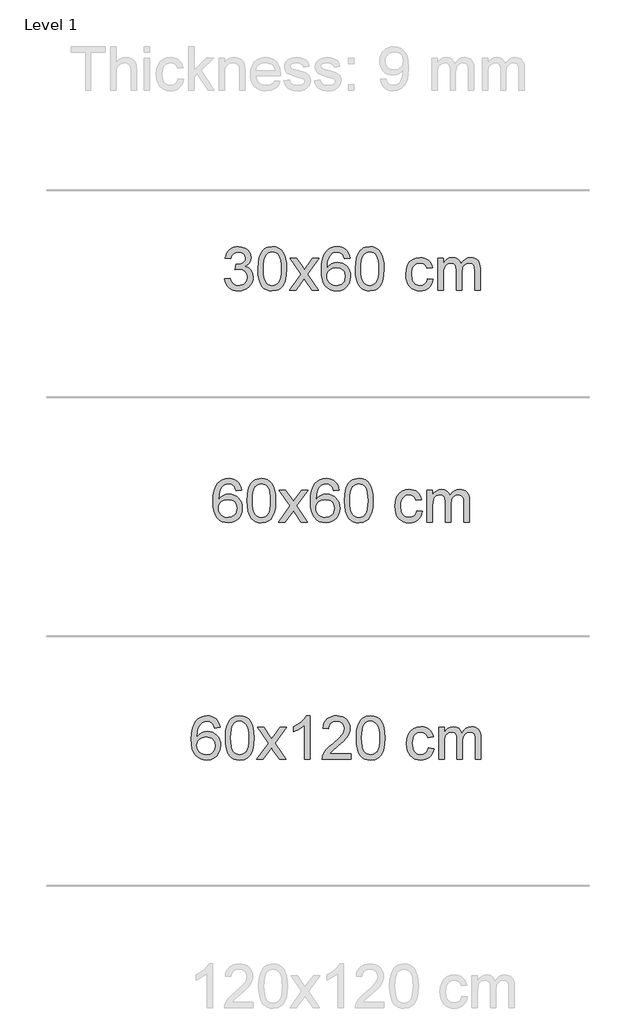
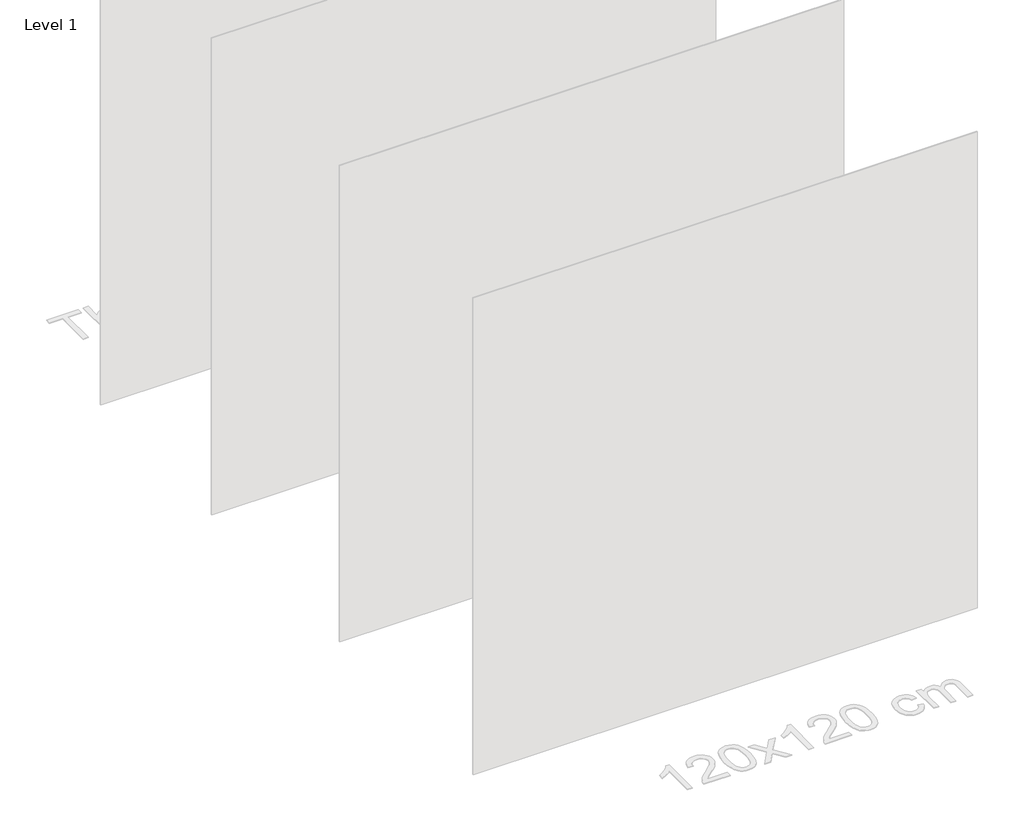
# One storey, part 2 of 7: 3 proxies.
"""IFC4 building model written with IfcOpenShell, lengths in millimetres."""

import ifcopenshell
import ifcopenshell.guid

model = None  # the IFC model being written
_history = None  # IfcOwnerHistory: only IFC2X3 demands one
_inside = {}  # id of a spatial element -> (the spatial element, [elements in it])
_under = {}  # id of a project, library or spatial element -> (it, [spatial elements below it])
_declared = {}  # id of a project -> (the project, [libraries it declares])
_typed = {}  # id of a type object -> (the type object, [elements of that type])
_made_of = {}  # id of a material, layer set ... -> (it, [elements and type objects made of it])


def new_model(schema):
    """Start an empty IFC model of exactly this schema.

    Asked for "IFC4X3", IfcOpenShell would pick the latest addendum, in which some entities
    have other attributes; the version numbers below select the first issue.
    IFC2X3 requires an IfcOwnerHistory on every rooted entity: one is made here for all.
    """
    global model, _history
    if schema == "IFC4X3":
        model = ifcopenshell.file(schema_version=(4, 3, 0, 0))
    else:
        model = ifcopenshell.file(schema=schema)
    _inside.clear()
    _under.clear()
    _declared.clear()
    _typed.clear()
    _made_of.clear()
    _history = None
    if model.schema == "IFC2X3":
        org = make("IfcOrganization", Name="unknown")
        user = make(
            "IfcPersonAndOrganization",
            ThePerson=make("IfcPerson", FamilyName="unknown"),
            TheOrganization=org,
        )
        app = make(
            "IfcApplication",
            ApplicationDeveloper=org,
            Version="unknown",
            ApplicationFullName="unknown",
            ApplicationIdentifier="unknown",
        )
        _history = make(
            "IfcOwnerHistory",
            OwningUser=user,
            OwningApplication=app,
            ChangeAction="ADDED",
            CreationDate=0,
        )
    return model


def make(cls, **values):
    """One entity of the class cls with the attributes given. An attribute that is None is left unset."""
    return model.create_entity(
        cls, **{name: value for name, value in values.items() if value is not None}
    )


def rooted(cls, **values):
    """An entity with a GlobalId (a new one), such as an element, a storey or a relation."""
    return make(cls, GlobalId=ifcopenshell.guid.new(), OwnerHistory=_history, **values)


def si_unit(unit_type, name, prefix=None):
    """IfcSIUnit, for example si_unit("LENGTHUNIT", "METRE", prefix="MILLI")."""
    return make("IfcSIUnit", UnitType=unit_type, Prefix=prefix, Name=name)


def assignment(units):
    """IfcUnitAssignment: the units of a project."""
    return None if units is None else make("IfcUnitAssignment", Units=units)


def point(xyz):
    """IfcCartesianPoint."""
    return None if xyz is None else make("IfcCartesianPoint", Coordinates=xyz)


def direction(xyz):
    """IfcDirection."""
    return None if xyz is None else make("IfcDirection", DirectionRatios=xyz)


def frame(location, z_axis=None, x_axis=None):
    """IfcAxis2Placement3D, a coordinate frame: its origin and axes. An axis left out is left unset."""
    return make(
        "IfcAxis2Placement3D",
        Location=point(location),
        Axis=direction(z_axis),
        RefDirection=direction(x_axis),
    )


def origin():
    """The frame at (0, 0, 0) with its axes left unset."""
    return frame((0.0, 0.0, 0.0))


def origin_with_axes():
    """The frame at (0, 0, 0) with the z axis (0, 0, 1) and the x axis (1, 0, 0) written out."""
    return frame((0.0, 0.0, 0.0), z_axis=(0.0, 0.0, 1.0), x_axis=(1.0, 0.0, 0.0))


def place(relative_to, where):
    """IfcLocalPlacement: puts the frame where relative to a parent placement (None: the world)."""
    return make(
        "IfcLocalPlacement", PlacementRelTo=relative_to, RelativePlacement=where
    )


def context(
    kind, dimensions, precision=None, world=None, true_north=None, identifier=None
):
    """IfcGeometricRepresentationContext, for example the 3D "Model" context."""
    return make(
        "IfcGeometricRepresentationContext",
        ContextIdentifier=identifier,
        ContextType=kind,
        CoordinateSpaceDimension=dimensions,
        Precision=precision,
        WorldCoordinateSystem=world,
        TrueNorth=true_north,
    )


def project(units=None, contexts=None):
    """IfcProject with its units and contexts."""
    return rooted(
        "IfcProject",
        Name="project",
        RepresentationContexts=contexts,
        UnitsInContext=assignment(units),
    )


def spatial(cls, under=None, at=None, **own):
    """A site, building, storey or space (cls), placed at a placement, below another one or the project."""
    s = rooted(cls, ObjectPlacement=at, **own)
    if under is not None:
        _under.setdefault(under.id(), (under, []))[1].append(s)
    return s


def polyline(points):
    """IfcPolyline through the points."""
    return make("IfcPolyline", Points=[point(p) for p in points])


def outline(outer, holes=None, kind="AREA"):
    """IfcArbitraryClosedProfileDef: a profile drawn as a closed curve; with holes, ...WithVoids."""
    if holes is None:
        return make("IfcArbitraryClosedProfileDef", ProfileType=kind, OuterCurve=outer)
    return make(
        "IfcArbitraryProfileDefWithVoids",
        ProfileType=kind,
        OuterCurve=outer,
        InnerCurves=holes,
    )


def extrude(swept, where, along, depth):
    """IfcExtrudedAreaSolid: the profile swept, set in the frame where, extruded along a direction by depth."""
    return make(
        "IfcExtrudedAreaSolid",
        SweptArea=swept,
        Position=where,
        ExtrudedDirection=direction(along),
        Depth=depth,
    )


def shape(context_of_items, identifier, shape_type, items):
    """IfcShapeRepresentation: the items that make up one representation, for example the "Body"."""
    return make(
        "IfcShapeRepresentation",
        ContextOfItems=context_of_items,
        RepresentationIdentifier=identifier,
        RepresentationType=shape_type,
        Items=items,
    )


def made_of(thing, what):
    """Note that an element or type object is made of a material, layer set ...; save() writes the relation."""
    if what is not None:
        _made_of.setdefault(what.id(), (what, []))[1].append(thing)
    return thing


def element(
    cls,
    number,
    at=None,
    inside=None,
    cuts=None,
    type_object=None,
    material=None,
    context=None,
    identifier="Body",
    shape_type=None,
    held_by="IfcProductDefinitionShape",
    body=None,
    shapes=None,
    **own,
):
    """One element of the class cls, such as IfcWall. Its Tag is "e" and its number.

    at: its placement. inside: the storey or other place that contains it. cuts: it is an
    opening in that element (IfcRelVoidsElement). A single representation is given by context,
    identifier, shape_type and body (its items); several are given by shapes. held_by: the class
    of the entity that holds the representations. save() writes the other relations.
    """
    e = rooted(cls, Tag="e%d" % number, ObjectPlacement=at, **own)
    if body is not None:
        shapes = [shape(context, identifier, shape_type, body)]
    if shapes is not None:
        e.Representation = make(held_by, Representations=shapes)
    if inside is not None:
        _inside.setdefault(inside.id(), (inside, []))[1].append(e)
    if cuts is not None:
        rooted(
            "IfcRelVoidsElement", RelatingBuildingElement=cuts, RelatedOpeningElement=e
        )
    if type_object is not None:
        _typed.setdefault(type_object.id(), (type_object, []))[1].append(e)
    return made_of(e, material)


def aggregate(whole, parts):
    """IfcRelAggregates: a whole, such as a stair, and the parts it consists of."""
    return rooted("IfcRelAggregates", RelatingObject=whole, RelatedObjects=parts)


def save(model, path):
    """Write the relations noted so far, then the file.

    IfcRelAggregates (storeys below a building ...), IfcRelContainedInSpatialStructure (elements
    in a storey), IfcRelDefinesByType, IfcRelAssociatesMaterial and IfcRelDeclares: one each for
    every whole, place, type object, material and project.
    """
    for whole, parts in _under.values():
        aggregate(whole, parts)
    for where, things in _inside.values():
        rooted(
            "IfcRelContainedInSpatialStructure",
            RelatedElements=things,
            RelatingStructure=where,
        )
    for kind, things in _typed.values():
        rooted("IfcRelDefinesByType", RelatedObjects=things, RelatingType=kind)
    for what, things in _made_of.values():
        rooted("IfcRelAssociatesMaterial", RelatedObjects=things, RelatingMaterial=what)
    for by, libraries in _declared.values():
        rooted("IfcRelDeclares", RelatingContext=by, RelatedDefinitions=libraries)
    model.write(path)


model = new_model("IFC4")

# Units and contexts
model_context = context("Model", 3, world=origin())
ifc_project = project(units=[si_unit("LENGTHUNIT", "METRE", prefix="MILLI")], contexts=[model_context])

# Site, building, storey
site = spatial("IfcSite", under=ifc_project)
building = spatial("IfcBuilding", under=site)
storey = spatial("IfcBuildingStorey", under=building, Name="Level 1", Elevation=0.0)

# Proxies
placement = place(None, origin())
element("IfcBuildingElementProxy", 1, Name="400mm Arial", ObjectType="400mm Arial", at=placement, inside=storey, context=model_context, shape_type="SweptSolid", body=[
    extrude(outline(polyline([(-14846.8810506, 5761.2945542), (-14897.1092056, 5755.0160348), (-14905.2026095, 5779.9093831), (-14916.1409675, 5796.9055313), (-14938.9251257, 5812.5773043), (-14966.4672245, 5817.8012286), (-14989.8154684, 5814.7600708), (-15011.7902863, 5805.6365973), (-15030.6626326, 5786.4208944), (-15046.0768882, 5759.970179), (-15056.4879487, 5722.5565801), (-15060.3507096, 5670.4522268), (-15040.203039, 5693.9598863), (-15016.0577174, 5710.5268388), (-14989.2636454, 5720.3492881), (-14961.1697237, 5723.6234379), (-14937.0366648, 5721.3854891), (-14914.7675414, 5714.6716427), (-14894.3623534, 5703.4818986), (-14875.8211008, 5687.816257), (-14860.4129766, 5668.6066855), (-14849.4071736, 5646.7851518), (-14842.8036918, 5622.351656), (-14840.6025312, 5595.306198), (-14844.747335, 5559.3396016), (-14857.1817464, 5525.9972301), (-14876.8756959, 5497.7193674), (-14902.7991138, 5476.9462974), (-14933.7747778, 5464.1807921), (-14968.6254655, 5459.9256237), (-14998.5679942, 5462.7460524), (-15025.6103865, 5471.2073382), (-15049.7526425, 5485.3094814), (-15070.994762, 5505.0524818), (-15088.3128069, 5531.2702053), (-15100.682839, 5564.7965178), (-15108.1048583, 5605.6314193), (-15110.5788647, 5653.7749097), (-15107.8320125, 5707.7493298), (-15099.5914558, 5753.8142869), (-15085.8571946, 5791.9697812), (-15066.629229, 5822.2158126), (-15045.788714, 5842.25925), (-15021.6249983, 5856.5759909), (-14994.1380819, 5865.1660355), (-14963.3279648, 5868.0293837), (-14940.1943186, 5866.2574188), (-14919.2557017, 5860.9415239), (-14900.5121141, 5852.0816992), (-14883.9635557, 5839.6779446), (-14870.0576162, 5824.1471931), (-14859.2418856, 5805.9063775), (-14851.5163637, 5784.9554978), (-14846.8810506, 5761.2945542)]), holes=[polyline([(-15060.3507096, 5596.0910129), (-15057.4444419, 5573.8341522), (-15048.7256386, 5552.5828356), (-15035.1875812, 5534.3113632), (-15017.823551, 5520.9940349), (-14996.86654, 5512.8638428), (-14972.5495401, 5510.1537788), (-14939.4033723, 5515.7701106), (-14925.4882359, 5522.7905253), (-14913.3450643, 5532.619106), (-14903.4950239, 5544.8573137), (-14896.4592808, 5559.1066096), (-14890.8306862, 5593.6384662), (-14896.3857044, 5626.784634), (-14903.329477, 5640.4054649), (-14913.0507588, 5652.0581271), (-14925.2307185, 5661.3931327), (-14939.5505251, 5668.0609939), (-14974.6096793, 5673.3952828), (-15007.7067961, 5668.0609939), (-15035.3837849, 5652.0581271), (-15046.3068145, 5640.558749), (-15054.1089784, 5627.3977707), (-15058.7902768, 5612.5751919), (-15060.3507096, 5596.0910129)])]), origin_with_axes(), (0.0, 0.0, 1.0), 5.0),
    extrude(outline(polyline([(-14796.6528955, 5663.8794019), (-14792.9618128, 5728.1974373), (-14781.8885647, 5779.4924502), (-14763.5435159, 5818.5492554), (-14751.6854529, 5833.7826356), (-14738.0370309, 5846.1526677), (-14722.5522646, 5855.723731), (-14705.1851687, 5862.5602047), (-14664.8039884, 5868.0293837), (-14633.8528499, 5864.7920222), (-14606.1390729, 5855.0799375), (-14582.9625072, 5839.2732744), (-14565.6230025, 5817.7521777), (-14552.5264035, 5790.7005883), (-14542.0785548, 5758.3024473), (-14535.2359497, 5717.1609775), (-14532.9550813, 5663.8794019), (-14536.6093758, 5599.9292484), (-14547.5722593, 5548.7568628), (-14565.8069435, 5509.6632695), (-14577.6374153, 5494.3839039), (-14591.2766403, 5481.9494925), (-14606.7798007, 5472.3140499), (-14624.2020789, 5465.4315909), (-14664.8039884, 5459.9256237), (-14692.4687144, 5462.3168567), (-14716.9941808, 5469.4905556), (-14738.3803874, 5481.4467204), (-14756.6273344, 5498.1853512), (-14774.1385174, 5528.4436453), (-14786.6465052, 5566.1454185), (-14794.1512979, 5611.2906706), (-14796.6528955, 5663.8794019)]), holes=[polyline([(-14746.4247404, 5663.9775037), (-14744.9532124, 5620.3129766), (-14740.5386285, 5584.9687139), (-14733.1809886, 5557.9447157), (-14722.8802927, 5539.2409819), (-14710.4213558, 5526.5153305), (-14696.5889928, 5517.4255796), (-14681.3832037, 5511.971729), (-14664.8039884, 5510.1537788), (-14648.2247732, 5511.9778604), (-14633.018984, 5517.450105), (-14619.186621, 5526.5705128), (-14606.7276841, 5539.3390838), (-14596.4269882, 5558.0734744), (-14589.0693483, 5585.0913412), (-14584.6547644, 5620.3926843), (-14583.1832364, 5663.9775037), (-14584.6057135, 5706.4862683), (-14588.8731446, 5741.2081972), (-14595.9855298, 5768.1432907), (-14605.9428692, 5787.2915485), (-14618.1933396, 5800.6395336), (-14632.1851182, 5810.1738086), (-14647.9182048, 5815.8943736), (-14665.3925996, 5817.8012286), (-14681.8859757, 5816.1212342), (-14696.8342475, 5811.0812509), (-14710.2374148, 5802.6812786), (-14722.0954778, 5790.9213175), (-14732.7395302, 5770.0746711), (-14740.3424247, 5741.9684867), (-14744.9041615, 5706.6027642), (-14746.4247404, 5663.9775037)])]), origin_with_axes(), (0.0, 0.0, 1.0), 5.0),
    extrude(outline(polyline([(-14507.8410038, 5466.2041431), (-14400.5175631, 5614.6322654), (-14501.5624844, 5761.2945542), (-14441.3279391, 5761.2945542), (-14392.571312, 5690.5631092), (-14369.7135773, 5657.3065769), (-14349.8970005, 5684.5788955), (-14294.3713447, 5761.2945542), (-14233.9405957, 5761.2945542), (-14340.086814, 5614.5341636), (-14237.8646703, 5466.2041431), (-14298.1973175, 5466.2041431), (-14359.8052889, 5555.4768406), (-14370.9889016, 5571.8598521), (-14447.4102547, 5466.2041431), (-14507.8410038, 5466.2041431)])), origin_with_axes(), (0.0, 0.0, 1.0), 5.0),
    extrude(outline(polyline([(-14018.1164918, 5466.2041431), (-14068.3446469, 5466.2041431), (-14068.3446469, 5779.3452974), (-14089.3139206, 5762.3859374), (-14115.9240516, 5745.4511029), (-14168.800957, 5720.0917707), (-14168.800957, 5767.5730736), (-14129.3517444, 5789.0328566), (-14095.1755071, 5814.5638671), (-14068.2342823, 5841.7135583), (-14050.4901074, 5868.0293837), (-14018.1164918, 5868.0293837), (-14018.1164918, 5466.2041431)])), origin_with_axes(), (0.0, 0.0, 1.0), 5.0),
    extrude(outline(polyline([(-13641.4053288, 5516.4322982), (-13641.4053288, 5466.2041431), (-13905.1031429, 5466.2041431), (-13903.9994969, 5483.8870043), (-13899.7075403, 5500.8341016), (-13887.3099171, 5527.8979537), (-13869.1488092, 5554.1524654), (-13842.8942975, 5581.6332505), (-13806.2164626, 5612.3759225), (-13752.0274447, 5660.519413), (-13719.5434645, 5696.0568137), (-13703.3198685, 5724.8987621), (-13697.9120032, 5752.9558956), (-13703.0255629, 5778.1067614), (-13718.3662421, 5799.0147214), (-13741.947478, 5813.1046018), (-13771.7827078, 5817.8012286), (-13803.1139911, 5813.2149664), (-13827.4555165, 5799.4561798), (-13843.1640776, 5777.6039893), (-13848.5964684, 5748.7375154), (-13898.8246235, 5755.0160348), (-13894.5050758, 5780.9455841), (-13886.6477295, 5803.6009836), (-13875.2525847, 5822.9822334), (-13860.3196414, 5839.0893334), (-13842.192256, 5851.7506054), (-13821.2137853, 5860.7943711), (-13797.384229, 5866.2206306), (-13770.7035873, 5868.0293837), (-13743.7838223, 5866.0182955), (-13719.8255074, 5859.9850308), (-13698.8286425, 5849.9295895), (-13680.7932277, 5835.8519719), (-13666.3078741, 5818.79451), (-13655.961193, 5799.7995363), (-13649.7531844, 5778.8670508), (-13647.6838481, 5755.9970534), (-13649.9156656, 5731.9743592), (-13656.6111179, 5708.3685978), (-13668.4937063, 5684.3581663), (-13686.2869322, 5659.1214614), (-13714.650634, 5628.991926), (-13758.2446504, 5590.3030028), (-13816.0266491, 5541.9878341), (-13838.68818, 5516.4322982), (-13641.4053288, 5516.4322982)])), origin_with_axes(), (0.0, 0.0, 1.0), 5.0),
    extrude(outline(polyline([(-13591.1771737, 5663.8794019), (-13587.486091, 5728.1974373), (-13576.4128429, 5779.4924502), (-13558.0677941, 5818.5492554), (-13546.2097311, 5833.7826356), (-13532.5613091, 5846.1526677), (-13517.0765428, 5855.723731), (-13499.7094469, 5862.5602047), (-13459.3282666, 5868.0293837), (-13428.3771281, 5864.7920222), (-13400.6633511, 5855.0799375), (-13377.4867854, 5839.2732744), (-13360.1472807, 5817.7521777), (-13347.0506817, 5790.7005883), (-13336.602833, 5758.3024473), (-13329.7602279, 5717.1609775), (-13327.4793595, 5663.8794019), (-13331.133654, 5599.9292484), (-13342.0965375, 5548.7568628), (-13360.3312217, 5509.6632695), (-13372.1616935, 5494.3839039), (-13385.8009185, 5481.9494925), (-13401.3040789, 5472.3140499), (-13418.7263571, 5465.4315909), (-13459.3282666, 5459.9256237), (-13486.9929926, 5462.3168567), (-13511.518459, 5469.4905556), (-13532.9046656, 5481.4467204), (-13551.1516126, 5498.1853512), (-13568.6627956, 5528.4436453), (-13581.1707834, 5566.1454185), (-13588.6755761, 5611.2906706), (-13591.1771737, 5663.8794019)]), holes=[polyline([(-13540.9490186, 5663.9775037), (-13539.4774906, 5620.3129766), (-13535.0629067, 5584.9687139), (-13527.7052668, 5557.9447157), (-13517.4045709, 5539.2409819), (-13504.945634, 5526.5153305), (-13491.113271, 5517.4255796), (-13475.9074819, 5511.971729), (-13459.3282666, 5510.1537788), (-13442.7490514, 5511.9778604), (-13427.5432622, 5517.450105), (-13413.7108992, 5526.5705128), (-13401.2519623, 5539.3390838), (-13390.9512664, 5558.0734744), (-13383.5936265, 5585.0913412), (-13379.1790426, 5620.3926843), (-13377.7075146, 5663.9775037), (-13379.1299917, 5706.4862683), (-13383.3974228, 5741.2081972), (-13390.509808, 5768.1432907), (-13400.4671474, 5787.2915485), (-13412.7176178, 5800.6395336), (-13426.7093964, 5810.1738086), (-13442.442483, 5815.8943736), (-13459.9168778, 5817.8012286), (-13476.4102539, 5816.1212342), (-13491.3585257, 5811.0812509), (-13504.761693, 5802.6812786), (-13516.619756, 5790.9213175), (-13527.2638084, 5770.0746711), (-13534.866703, 5741.9684867), (-13539.4284397, 5706.6027642), (-13540.9490186, 5663.9775037)])]), origin_with_axes(), (0.0, 0.0, 1.0), 5.0),
    extrude(outline(polyline([(-12925.6541189, 5572.9389726), (-12875.4259639, 5566.6604533), (-12880.8890115, 5542.9596557), (-12889.4300051, 5521.9873163), (-12901.0489448, 5503.743435), (-12915.7458305, 5488.2280119), (-12932.9013942, 5475.8457171), (-12951.8963679, 5467.0012208), (-12972.7307516, 5461.694523), (-12995.4045452, 5459.9256237), (-13023.575109, 5462.3934988), (-13048.8332737, 5469.7971239), (-13071.1790392, 5482.1364992), (-13090.6124056, 5499.4116245), (-13106.3424266, 5521.2975376), (-13117.5781558, 5547.4692758), (-13124.3195934, 5577.9268394), (-13126.5667392, 5612.6702281), (-13122.7285038, 5657.3678905), (-13111.2137973, 5696.1058646), (-13091.8386789, 5727.388097), (-13064.4192075, 5749.7185341), (-13031.6163963, 5763.1094387), (-12996.0912583, 5767.5730736), (-12973.8068064, 5766.0402319), (-12953.6499388, 5761.441707), (-12935.6206553, 5753.7774987), (-12919.7189561, 5743.0476072), (-12906.2146212, 5729.4972871), (-12895.3774307, 5713.3717929), (-12887.2073848, 5694.6711249), (-12881.7044833, 5673.3952828), (-12931.9326383, 5667.1167634), (-12941.0438491, 5689.0302676), (-12955.2318314, 5704.7388288), (-12973.7117702, 5714.1933961), (-12995.6988508, 5717.3449185), (-13012.7655097, 5715.7936827), (-13028.1583055, 5711.1399755), (-13041.8772383, 5703.3837968), (-13053.9223079, 5692.5251465), (-13063.7294288, 5678.3126388), (-13070.7345151, 5660.4948875), (-13074.9375669, 5639.0718926), (-13076.3385842, 5614.0436542), (-13070.8571424, 5566.9670216), (-13064.0053403, 5549.0297086), (-13054.4128173, 5534.8263979), (-13042.6068709, 5524.0321271), (-13029.1147987, 5516.3219336), (-13013.9366007, 5511.6958175), (-12997.0722769, 5510.1537788), (-12971.0630199, 5514.004277), (-12949.7381269, 5525.5557717), (-12934.2257694, 5545.1025683), (-12925.6541189, 5572.9389726)])), origin_with_axes(), (0.0, 0.0, 1.0), 5.0),
    extrude(outline(polyline([(-12831.4763282, 5466.2041431), (-12831.4763282, 5761.2945542), (-12781.2481731, 5761.2945542), (-12781.2481731, 5712.7341308), (-12766.1404858, 5735.0400425), (-12746.7163165, 5752.5144372), (-12723.6378527, 5763.8084145), (-12697.5672819, 5767.5730736), (-12669.6327758, 5763.7348381), (-12647.241025, 5752.2201316), (-12630.5146569, 5733.7892437), (-12619.576299, 5709.2024637), (-12601.2680383, 5734.7396055), (-12580.3846037, 5752.9804211), (-12556.9259952, 5763.9249104), (-12530.8922127, 5767.5730736), (-12510.7843959, 5766.0555603), (-12493.1352572, 5761.5030206), (-12477.9447965, 5753.9154545), (-12465.2130138, 5743.2928619), (-12455.1483755, 5729.5126155), (-12447.9593482, 5712.452088), (-12443.6459318, 5692.1112793), (-12442.2081263, 5668.4901895), (-12442.2081263, 5466.2041431), (-12492.4362814, 5466.2041431), (-12492.4362814, 5646.9077791), (-12493.6012411, 5671.960543), (-12497.09612, 5688.8463266), (-12503.6444195, 5700.410084), (-12513.9696409, 5709.4967693), (-12527.2501809, 5715.3828812), (-12542.6644365, 5717.3449185), (-12569.8754414, 5712.3171979), (-12592.0587257, 5697.2340361), (-12600.6640987, 5685.6641473), (-12606.8107937, 5671.0653635), (-12611.7281497, 5632.7811105), (-12611.7281497, 5466.2041431), (-12661.9563048, 5466.2041431), (-12661.9563048, 5652.4995855), (-12664.8625726, 5680.9000755), (-12673.5813758, 5701.1581107), (-12688.922055, 5713.2982165), (-12711.6939505, 5717.3449185), (-12731.0445435, 5714.6471172), (-12748.8745575, 5706.5537133), (-12763.5898373, 5693.2609105), (-12773.5962276, 5674.9649126), (-12779.3351867, 5649.581055), (-12781.2481731, 5615.0246729), (-12781.2481731, 5466.2041431), (-12831.4763282, 5466.2041431)])), origin_with_axes(), (0.0, 0.0, 1.0), 5.0),
])
element("IfcBuildingElementProxy", 2, Name="400mm Arial", ObjectType="400mm Arial", at=placement, inside=storey, context=model_context, shape_type="SweptSolid", body=[
    extrude(outline(polyline([(-14646.8810506, 7945.4454612), (-14697.1092056, 7939.1669418), (-14705.2026095, 7964.0602901), (-14716.1409675, 7981.0564383), (-14738.9251257, 7996.7282113), (-14766.4672245, 8001.9521356), (-14789.8154684, 7998.9109778), (-14811.7902863, 7989.7875043), (-14830.6626326, 7970.5718014), (-14846.0768882, 7944.121086), (-14856.4879487, 7906.7074871), (-14860.3507096, 7854.6031338), (-14840.203039, 7878.1107933), (-14816.0577174, 7894.6777458), (-14789.2636454, 7904.5001951), (-14761.1697237, 7907.7743449), (-14737.0366648, 7905.5363961), (-14714.7675414, 7898.8225496), (-14694.3623534, 7887.6328056), (-14675.8211008, 7871.967164), (-14660.4129766, 7852.7575925), (-14649.4071736, 7830.9360588), (-14642.8036918, 7806.502563), (-14640.6025312, 7779.4571049), (-14644.747335, 7743.4905086), (-14657.1817464, 7710.1481371), (-14676.8756959, 7681.8702744), (-14702.7991138, 7661.0972044), (-14733.7747778, 7648.3316991), (-14768.6254655, 7644.0765307), (-14798.5679942, 7646.8969594), (-14825.6103865, 7655.3582452), (-14849.7526425, 7669.4603884), (-14870.994762, 7689.2033888), (-14888.3128069, 7715.4211123), (-14900.682839, 7748.9474248), (-14908.1048583, 7789.7823263), (-14910.5788647, 7837.9258167), (-14907.8320125, 7891.9002368), (-14899.5914558, 7937.9651939), (-14885.8571946, 7976.1206882), (-14866.629229, 8006.3667196), (-14845.788714, 8026.4101569), (-14821.6249983, 8040.7268979), (-14794.1380819, 8049.3169425), (-14763.3279648, 8052.1802907), (-14740.1943186, 8050.4083258), (-14719.2557017, 8045.0924309), (-14700.5121141, 8036.2326062), (-14683.9635557, 8023.8288516), (-14670.0576162, 8008.2981), (-14659.2418856, 7990.0572845), (-14651.5163637, 7969.1064048), (-14646.8810506, 7945.4454612)]), holes=[polyline([(-14860.3507096, 7780.2419199), (-14857.4444419, 7757.9850592), (-14848.7256386, 7736.7337426), (-14835.1875812, 7718.4622701), (-14817.823551, 7705.1449419), (-14796.86654, 7697.0147498), (-14772.5495401, 7694.3046858), (-14739.4033723, 7699.9210176), (-14725.4882359, 7706.9414323), (-14713.3450643, 7716.770013), (-14703.4950239, 7729.0082207), (-14696.4592808, 7743.2575166), (-14690.8306862, 7777.7893732), (-14696.3857044, 7810.935541), (-14703.329477, 7824.5563719), (-14713.0507588, 7836.2090341), (-14725.2307185, 7845.5440397), (-14739.5505251, 7852.2119009), (-14774.6096793, 7857.5461898), (-14807.7067961, 7852.2119009), (-14835.3837849, 7836.2090341), (-14846.3068145, 7824.709656), (-14854.1089784, 7811.5486777), (-14858.7902768, 7796.7260989), (-14860.3507096, 7780.2419199)])]), origin_with_axes(), (0.0, 0.0, 1.0), 5.0),
    extrude(outline(polyline([(-14596.6528955, 7848.0303088), (-14592.9618128, 7912.3483443), (-14581.8885647, 7963.6433572), (-14563.5435159, 8002.7001624), (-14551.6854529, 8017.9335426), (-14538.0370309, 8030.3035747), (-14522.5522646, 8039.874638), (-14505.1851687, 8046.7111117), (-14464.8039884, 8052.1802907), (-14433.8528499, 8048.9429291), (-14406.1390729, 8039.2308445), (-14382.9625072, 8023.4241814), (-14365.6230025, 8001.9030847), (-14352.5264035, 7974.8514953), (-14342.0785548, 7942.4533543), (-14335.2359497, 7901.3118845), (-14332.9550813, 7848.0303088), (-14336.6093758, 7784.0801554), (-14347.5722593, 7732.9077698), (-14365.8069435, 7693.8141765), (-14377.6374153, 7678.5348109), (-14391.2766403, 7666.1003995), (-14406.7798007, 7656.4649569), (-14424.2020789, 7649.5824979), (-14464.8039884, 7644.0765307), (-14492.4687144, 7646.4677637), (-14516.9941808, 7653.6414626), (-14538.3803874, 7665.5976274), (-14556.6273344, 7682.3362582), (-14574.1385174, 7712.5945523), (-14586.6465052, 7750.2963255), (-14594.1512979, 7795.4415776), (-14596.6528955, 7848.0303088)]), holes=[polyline([(-14546.4247404, 7848.1284107), (-14544.9532124, 7804.4638836), (-14540.5386285, 7769.1196209), (-14533.1809886, 7742.0956227), (-14522.8802927, 7723.3918889), (-14510.4213558, 7710.6662375), (-14496.5889928, 7701.5764866), (-14481.3832037, 7696.122636), (-14464.8039884, 7694.3046858), (-14448.2247732, 7696.1287674), (-14433.018984, 7701.601012), (-14419.186621, 7710.7214198), (-14406.7276841, 7723.4899907), (-14396.4269882, 7742.2243814), (-14389.0693483, 7769.2422482), (-14384.6547644, 7804.5435913), (-14383.1832364, 7848.1284107), (-14384.6057135, 7890.6371753), (-14388.8731446, 7925.3591042), (-14395.9855298, 7952.2941976), (-14405.9428692, 7971.4424555), (-14418.1933396, 7984.7904406), (-14432.1851182, 7994.3247156), (-14447.9182048, 8000.0452806), (-14465.3925996, 8001.9521356), (-14481.8859757, 8000.2721412), (-14496.8342475, 7995.2321579), (-14510.2374148, 7986.8321856), (-14522.0954778, 7975.0722245), (-14532.7395302, 7954.2255781), (-14540.3424247, 7926.1193937), (-14544.9041615, 7890.7536712), (-14546.4247404, 7848.1284107)])]), origin_with_axes(), (0.0, 0.0, 1.0), 5.0),
    extrude(outline(polyline([(-14307.8410038, 7650.3550501), (-14200.5175631, 7798.7831724), (-14301.5624844, 7945.4454612), (-14241.3279391, 7945.4454612), (-14192.571312, 7874.7140162), (-14169.7135773, 7841.4574839), (-14149.8970005, 7868.7298024), (-14094.3713447, 7945.4454612), (-14033.9405957, 7945.4454612), (-14140.086814, 7798.6850706), (-14037.8646703, 7650.3550501), (-14098.1973175, 7650.3550501), (-14159.8052889, 7739.6277476), (-14170.9889016, 7756.0107591), (-14247.4102547, 7650.3550501), (-14307.8410038, 7650.3550501)])), origin_with_axes(), (0.0, 0.0, 1.0), 5.0),
    extrude(outline(polyline([(-13749.0527786, 7945.4454612), (-13799.2809337, 7939.1669418), (-13807.3743376, 7964.0602901), (-13818.3126955, 7981.0564383), (-13841.0968538, 7996.7282113), (-13868.6389525, 8001.9521356), (-13891.9871964, 7998.9109778), (-13913.9620143, 7989.7875043), (-13932.8343606, 7970.5718014), (-13948.2486162, 7944.121086), (-13958.6596767, 7906.7074871), (-13962.5224377, 7854.6031338), (-13942.3747671, 7878.1107933), (-13918.2294454, 7894.6777458), (-13891.4353735, 7904.5001951), (-13863.3414518, 7907.7743449), (-13839.2083929, 7905.5363961), (-13816.9392694, 7898.8225496), (-13796.5340814, 7887.6328056), (-13777.9928289, 7871.967164), (-13762.5847046, 7852.7575925), (-13751.5789016, 7830.9360588), (-13744.9754198, 7806.502563), (-13742.7742592, 7779.4571049), (-13746.919063, 7743.4905086), (-13759.3534745, 7710.1481371), (-13779.0474239, 7681.8702744), (-13804.9708419, 7661.0972044), (-13835.9465059, 7648.3316991), (-13870.7971935, 7644.0765307), (-13900.7397223, 7646.8969594), (-13927.7821146, 7655.3582452), (-13951.9243705, 7669.4603884), (-13973.1664901, 7689.2033888), (-13990.484535, 7715.4211123), (-14002.8545671, 7748.9474248), (-14010.2765863, 7789.7823263), (-14012.7505927, 7837.9258167), (-14010.0037405, 7891.9002368), (-14001.7631838, 7937.9651939), (-13988.0289227, 7976.1206882), (-13968.800957, 8006.3667196), (-13947.960442, 8026.4101569), (-13923.7967263, 8040.7268979), (-13896.3098099, 8049.3169425), (-13865.4996928, 8052.1802907), (-13842.3660467, 8050.4083258), (-13821.4274298, 8045.0924309), (-13802.6838421, 8036.2326062), (-13786.1352837, 8023.8288516), (-13772.2293443, 8008.2981), (-13761.4136136, 7990.0572845), (-13753.6880917, 7969.1064048), (-13749.0527786, 7945.4454612)]), holes=[polyline([(-13962.5224377, 7780.2419199), (-13959.6161699, 7757.9850592), (-13950.8973666, 7736.7337426), (-13937.3593092, 7718.4622701), (-13919.995279, 7705.1449419), (-13899.038268, 7697.0147498), (-13874.7212681, 7694.3046858), (-13841.5751004, 7699.9210176), (-13827.6599639, 7706.9414323), (-13815.5167924, 7716.770013), (-13805.666752, 7729.0082207), (-13798.6310088, 7743.2575166), (-13793.0024143, 7777.7893732), (-13798.5574324, 7810.935541), (-13805.5012051, 7824.5563719), (-13815.2224868, 7836.2090341), (-13827.4024465, 7845.5440397), (-13841.7222532, 7852.2119009), (-13876.7814073, 7857.5461898), (-13909.8785241, 7852.2119009), (-13937.5555129, 7836.2090341), (-13948.4785425, 7824.709656), (-13956.2807065, 7811.5486777), (-13960.9620049, 7796.7260989), (-13962.5224377, 7780.2419199)])]), origin_with_axes(), (0.0, 0.0, 1.0), 5.0),
    extrude(outline(polyline([(-13698.8246235, 7848.0303088), (-13695.1335408, 7912.3483443), (-13684.0602928, 7963.6433572), (-13665.7152439, 8002.7001624), (-13653.857181, 8017.9335426), (-13640.208759, 8030.3035747), (-13624.7239926, 8039.874638), (-13607.3568968, 8046.7111117), (-13566.9757164, 8052.1802907), (-13536.0245779, 8048.9429291), (-13508.3108009, 8039.2308445), (-13485.1342353, 8023.4241814), (-13467.7947305, 8001.9030847), (-13454.6981315, 7974.8514953), (-13444.2502829, 7942.4533543), (-13437.4076777, 7901.3118845), (-13435.1268094, 7848.0303088), (-13438.7811039, 7784.0801554), (-13449.7439873, 7732.9077698), (-13467.9786715, 7693.8141765), (-13479.8091434, 7678.5348109), (-13493.4483683, 7666.1003995), (-13508.9515288, 7656.4649569), (-13526.3738069, 7649.5824979), (-13566.9757164, 7644.0765307), (-13594.6404425, 7646.4677637), (-13619.1659088, 7653.6414626), (-13640.5521155, 7665.5976274), (-13658.7990624, 7682.3362582), (-13676.3102454, 7712.5945523), (-13688.8182332, 7750.2963255), (-13696.3230259, 7795.4415776), (-13698.8246235, 7848.0303088)]), holes=[polyline([(-13648.5964684, 7848.1284107), (-13647.1249405, 7804.4638836), (-13642.7103565, 7769.1196209), (-13635.3527166, 7742.0956227), (-13625.0520207, 7723.3918889), (-13612.5930838, 7710.6662375), (-13598.7607208, 7701.5764866), (-13583.5549317, 7696.122636), (-13566.9757164, 7694.3046858), (-13550.3965012, 7696.1287674), (-13535.1907121, 7701.601012), (-13521.358349, 7710.7214198), (-13508.8994121, 7723.4899907), (-13498.5987163, 7742.2243814), (-13491.2410764, 7769.2422482), (-13486.8264924, 7804.5435913), (-13485.3549644, 7848.1284107), (-13486.7774415, 7890.6371753), (-13491.0448726, 7925.3591042), (-13498.1572579, 7952.2941976), (-13508.1145972, 7971.4424555), (-13520.3650677, 7984.7904406), (-13534.3568462, 7994.3247156), (-13550.0899329, 8000.0452806), (-13567.5643276, 8001.9521356), (-13584.0577038, 8000.2721412), (-13599.0059755, 7995.2321579), (-13612.4091428, 7986.8321856), (-13624.2672058, 7975.0722245), (-13634.9112582, 7954.2255781), (-13642.5141528, 7926.1193937), (-13647.0758895, 7890.7536712), (-13648.5964684, 7848.1284107)])]), origin_with_axes(), (0.0, 0.0, 1.0), 5.0),
    extrude(outline(polyline([(-13033.3015688, 7757.0898796), (-12983.0734137, 7750.8113603), (-12988.5364613, 7727.1105627), (-12997.077455, 7706.1382233), (-13008.6963947, 7687.894342), (-13023.3932804, 7672.3789189), (-13040.5488441, 7659.9966241), (-13059.5438178, 7651.1521278), (-13080.3782014, 7645.84543), (-13103.0519951, 7644.0765307), (-13131.2225588, 7646.5444058), (-13156.4807235, 7653.9480309), (-13178.826489, 7666.2874062), (-13198.2598554, 7683.5625315), (-13213.9898764, 7705.4484446), (-13225.2256057, 7731.6201828), (-13231.9670432, 7762.0777464), (-13234.2141891, 7796.8211351), (-13230.3759536, 7841.5187975), (-13218.8612471, 7880.2567716), (-13199.4861287, 7911.5390039), (-13172.0666574, 7933.8694411), (-13139.2638461, 7947.2603457), (-13103.7387081, 7951.7239806), (-13081.4542563, 7950.1911389), (-13061.2973886, 7945.592614), (-13043.2681052, 7937.9284057), (-13027.3664059, 7927.1985142), (-13013.862071, 7913.6481941), (-13003.0248806, 7897.5226999), (-12994.8548346, 7878.8220318), (-12989.3519331, 7857.5461898), (-13039.5800882, 7851.2676704), (-13048.6912989, 7873.1811746), (-13062.8792812, 7888.8897358), (-13081.3592201, 7898.3443031), (-13103.3463007, 7901.4958255), (-13120.4129595, 7899.9445897), (-13135.8057554, 7895.2908825), (-13149.5246881, 7887.5347038), (-13161.5697578, 7876.6760535), (-13171.3768786, 7862.4635458), (-13178.3819649, 7844.6457945), (-13182.5850167, 7823.2227996), (-13183.986034, 7798.1945612), (-13178.5045923, 7751.1179286), (-13171.6527901, 7733.1806156), (-13162.0602671, 7718.9773049), (-13150.2543207, 7708.1830341), (-13136.7622486, 7700.4728406), (-13121.5840506, 7695.8467245), (-13104.7197268, 7694.3046858), (-13078.7104697, 7698.155184), (-13057.3855767, 7709.7066787), (-13041.8732193, 7729.2534753), (-13033.3015688, 7757.0898796)])), origin_with_axes(), (0.0, 0.0, 1.0), 5.0),
    extrude(outline(polyline([(-12939.123778, 7650.3550501), (-12939.123778, 7945.4454612), (-12888.8956229, 7945.4454612), (-12888.8956229, 7896.8850378), (-12873.7879357, 7919.1909494), (-12854.3637663, 7936.6653442), (-12831.2853025, 7947.9593215), (-12805.2147318, 7951.7239806), (-12777.2802256, 7947.8857451), (-12754.8884748, 7936.3710386), (-12738.1621068, 7917.9401507), (-12727.2237488, 7893.3533707), (-12708.9154882, 7918.8905125), (-12688.0320536, 7937.1313281), (-12664.573445, 7948.0758174), (-12638.5396625, 7951.7239806), (-12618.4318458, 7950.2064673), (-12600.782707, 7945.6539276), (-12585.5922463, 7938.0663615), (-12572.8604636, 7927.4437689), (-12562.7958254, 7913.6635225), (-12555.606798, 7896.6029949), (-12551.2933816, 7876.2621863), (-12549.8555762, 7852.6410965), (-12549.8555762, 7650.3550501), (-12600.0837313, 7650.3550501), (-12600.0837313, 7831.0586861), (-12601.2486909, 7856.11145), (-12604.7435699, 7872.9972336), (-12611.2918694, 7884.560991), (-12621.6170907, 7893.6476763), (-12634.8976307, 7899.5337882), (-12650.3118863, 7901.4958255), (-12677.5228912, 7896.4681049), (-12699.7061755, 7881.3849431), (-12708.3115486, 7869.8150543), (-12714.4582436, 7855.2162705), (-12719.3755996, 7816.9320175), (-12719.3755996, 7650.3550501), (-12769.6037546, 7650.3550501), (-12769.6037546, 7836.6504925), (-12772.5100224, 7865.0509825), (-12781.2288257, 7885.3090177), (-12796.5695049, 7897.4491235), (-12819.3414004, 7901.4958255), (-12838.6919933, 7898.7980242), (-12856.5220074, 7890.7046203), (-12871.2372872, 7877.4118175), (-12881.2436774, 7859.1158196), (-12886.9826366, 7833.731962), (-12888.8956229, 7799.1755799), (-12888.8956229, 7650.3550501), (-12939.123778, 7650.3550501)])), origin_with_axes(), (0.0, 0.0, 1.0), 5.0),
])
element("IfcBuildingElementProxy", 3, Name="400mm Arial", ObjectType="400mm Arial", at=placement, inside=storey, context=model_context, shape_type="SweptSolid", body=[
    extrude(outline(polyline([(-14804.3003453, 9890.3425718), (-14754.0721902, 9896.6210912), (-14742.8272639, 9865.056816), (-14726.3584133, 9843.7441858), (-14703.8562979, 9831.6040799), (-14674.5115774, 9827.557378), (-14640.0778227, 9833.1246589), (-14625.8040013, 9840.0837599), (-14613.4922171, 9849.8265014), (-14596.496069, 9874.7443752), (-14590.8306862, 9904.9597498), (-14596.447018, 9933.6422827), (-14613.2960134, 9956.9046875), (-14638.8024984, 9972.3189431), (-14670.3912991, 9977.4570283), (-14705.6098687, 9971.9633238), (-14700.0180624, 10022.1914789), (-14691.9737095, 10021.6028677), (-14661.8809622, 10025.2081113), (-14634.9765257, 10036.0238419), (-14623.9032776, 10044.203085), (-14615.9938147, 10054.3198398), (-14611.248137, 10066.3741065), (-14609.6662444, 10080.3658851), (-14614.2525066, 10102.0586601), (-14628.0112932, 10119.6556822), (-14649.0050924, 10131.3175414), (-14675.2963923, 10135.2048278), (-14701.6367432, 10131.2807532), (-14723.1701026, 10119.5085294), (-14738.8909266, 10099.8881563), (-14747.7936709, 10072.419634), (-14798.0218259, 10078.6981534), (-14792.068269, 10102.6779281), (-14783.2329697, 10123.800486), (-14771.5159282, 10142.065827), (-14756.9171443, 10157.4739513), (-14739.8964707, 10169.7060276), (-14720.9137597, 10178.443225), (-14699.9690115, 10183.6855434), (-14677.0622259, 10185.4329829), (-14645.485688, 10181.9871549), (-14616.484324, 10171.6496708), (-14592.0324341, 10155.3402357), (-14574.1043182, 10133.9785545), (-14563.1046465, 10109.367249), (-14559.4380893, 10083.308941), (-14562.9207055, 10059.0287294), (-14573.3685542, 10037.0048606), (-14590.6344825, 10018.2428788), (-14614.5713377, 10003.7483282), (-14583.1296898, 9991.0441367), (-14559.8304968, 9969.4126753), (-14545.4095226, 9940.0311667), (-14540.6025312, 9904.076833), (-14543.0060269, 9878.5948735), (-14550.216514, 9855.1240022), (-14562.2339925, 9833.6642191), (-14579.0584624, 9814.2155243), (-14599.5556209, 9798.0777674), (-14622.5911652, 9786.5507983), (-14648.1650952, 9779.6346168), (-14676.277411, 9777.3292229), (-14701.6857941, 9779.2973916), (-14724.8378344, 9785.2018976), (-14745.7335317, 9795.042741), (-14764.3728861, 9808.8199217), (-14780.0017395, 9825.7240994), (-14791.8659339, 9844.9459336), (-14799.9654691, 9866.4854245), (-14804.3003453, 9890.3425718)])), origin_with_axes(), (0.0, 0.0, 1.0), 5.0),
    extrude(outline(polyline([(-14496.6528955, 9981.283001), (-14492.9618128, 10045.6010365), (-14481.8885647, 10096.8960494), (-14463.5435159, 10135.9528546), (-14451.6854529, 10151.1862348), (-14438.0370309, 10163.5562669), (-14422.5522646, 10173.1273302), (-14405.1851687, 10179.9638039), (-14364.8039884, 10185.4329829), (-14333.8528499, 10182.1956213), (-14306.1390729, 10172.4835367), (-14282.9625072, 10156.6768736), (-14265.6230025, 10135.1557769), (-14252.5264035, 10108.1041875), (-14242.0785548, 10075.7060465), (-14235.2359497, 10034.5645767), (-14232.9550813, 9981.283001), (-14236.6093758, 9917.3328476), (-14247.5722593, 9866.160462), (-14265.8069435, 9827.0668687), (-14277.6374153, 9811.7875031), (-14291.2766403, 9799.3530917), (-14306.7798007, 9789.7176491), (-14324.2020789, 9782.8351901), (-14364.8039884, 9777.3292229), (-14392.4687144, 9779.7204559), (-14416.9941808, 9786.8941548), (-14438.3803874, 9798.8503196), (-14456.6273344, 9815.5889504), (-14474.1385174, 9845.8472445), (-14486.6465052, 9883.5490177), (-14494.1512979, 9928.6942698), (-14496.6528955, 9981.283001)]), holes=[polyline([(-14446.4247404, 9981.3811029), (-14444.9532124, 9937.7165758), (-14440.5386285, 9902.3723131), (-14433.1809886, 9875.3483149), (-14422.8802927, 9856.6445811), (-14410.4213558, 9843.9189297), (-14396.5889928, 9834.8291788), (-14381.3832037, 9829.3753282), (-14364.8039884, 9827.557378), (-14348.2247732, 9829.3814596), (-14333.018984, 9834.8537042), (-14319.186621, 9843.974112), (-14306.7276841, 9856.7426829), (-14296.4269882, 9875.4770736), (-14289.0693483, 9902.4949404), (-14284.6547644, 9937.7962835), (-14283.1832364, 9981.3811029), (-14284.6057135, 10023.8898675), (-14288.8731446, 10058.6117964), (-14295.9855298, 10085.5468898), (-14305.9428692, 10104.6951477), (-14318.1933396, 10118.0431328), (-14332.1851182, 10127.5774078), (-14347.9182048, 10133.2979728), (-14365.3925996, 10135.2048278), (-14381.8859757, 10133.5248334), (-14396.8342475, 10128.4848501), (-14410.2374148, 10120.0848778), (-14422.0954778, 10108.3249167), (-14432.7395302, 10087.4782703), (-14440.3424247, 10059.3720859), (-14444.9041615, 10024.0063634), (-14446.4247404, 9981.3811029)])]), origin_with_axes(), (0.0, 0.0, 1.0), 5.0),
    extrude(outline(polyline([(-14207.8410038, 9783.6077423), (-14100.5175631, 9932.0358646), (-14201.5624844, 10078.6981534), (-14141.3279391, 10078.6981534), (-14092.571312, 10007.9667084), (-14069.7135773, 9974.7101761), (-14049.8970005, 10001.9824946), (-13994.3713447, 10078.6981534), (-13933.9405957, 10078.6981534), (-14040.086814, 9931.9377628), (-13937.8646703, 9783.6077423), (-13998.1973175, 9783.6077423), (-14059.8052889, 9872.8804398), (-14070.9889016, 9889.2634513), (-14147.4102547, 9783.6077423), (-14207.8410038, 9783.6077423)])), origin_with_axes(), (0.0, 0.0, 1.0), 5.0),
    extrude(outline(polyline([(-13649.0527786, 10078.6981534), (-13699.2809337, 10072.419634), (-13707.3743376, 10097.3129823), (-13718.3126955, 10114.3091305), (-13741.0968538, 10129.9809035), (-13768.6389525, 10135.2048278), (-13791.9871964, 10132.16367), (-13813.9620143, 10123.0401965), (-13832.8343606, 10103.8244936), (-13848.2486162, 10077.3737782), (-13858.6596767, 10039.9601793), (-13862.5224377, 9987.855826), (-13842.3747671, 10011.3634855), (-13818.2294454, 10027.930438), (-13791.4353735, 10037.7528873), (-13763.3414518, 10041.0270371), (-13739.2083929, 10038.7890883), (-13716.9392694, 10032.0752418), (-13696.5340814, 10020.8854978), (-13677.9928289, 10005.2198562), (-13662.5847046, 9986.0102847), (-13651.5789016, 9964.188751), (-13644.9754198, 9939.7552552), (-13642.7742592, 9912.7097971), (-13646.919063, 9876.7432008), (-13659.3534745, 9843.4008293), (-13679.0474239, 9815.1229666), (-13704.9708419, 9794.3498966), (-13735.9465059, 9781.5843913), (-13770.7971935, 9777.3292229), (-13800.7397223, 9780.1496516), (-13827.7821146, 9788.6109374), (-13851.9243705, 9802.7130806), (-13873.1664901, 9822.456081), (-13890.484535, 9848.6738045), (-13902.8545671, 9882.200117), (-13910.2765863, 9923.0350185), (-13912.7505927, 9971.1785089), (-13910.0037405, 10025.152929), (-13901.7631838, 10071.2178861), (-13888.0289227, 10109.3733804), (-13868.800957, 10139.6194118), (-13847.960442, 10159.6628491), (-13823.7967263, 10173.9795901), (-13796.3098099, 10182.5696347), (-13765.4996928, 10185.4329829), (-13742.3660467, 10183.661018), (-13721.4274298, 10178.3451231), (-13702.6838421, 10169.4852984), (-13686.1352837, 10157.0815438), (-13672.2293443, 10141.5507922), (-13661.4136136, 10123.3099767), (-13653.6880917, 10102.359097), (-13649.0527786, 10078.6981534)]), holes=[polyline([(-13862.5224377, 9913.4946121), (-13859.6161699, 9891.2377514), (-13850.8973666, 9869.9864348), (-13837.3593092, 9851.7149623), (-13819.995279, 9838.3976341), (-13799.038268, 9830.267442), (-13774.7212681, 9827.557378), (-13741.5751004, 9833.1737098), (-13727.6599639, 9840.1941245), (-13715.5167924, 9850.0227052), (-13705.666752, 9862.2609129), (-13698.6310088, 9876.5102088), (-13693.0024143, 9911.0420654), (-13698.5574324, 9944.1882332), (-13705.5012051, 9957.8090641), (-13715.2224868, 9969.4617263), (-13727.4024465, 9978.7967319), (-13741.7222532, 9985.4645931), (-13776.7814073, 9990.798882), (-13809.8785241, 9985.4645931), (-13837.5555129, 9969.4617263), (-13848.4785425, 9957.9623482), (-13856.2807065, 9944.8013699), (-13860.9620049, 9929.9787911), (-13862.5224377, 9913.4946121)])]), origin_with_axes(), (0.0, 0.0, 1.0), 5.0),
    extrude(outline(polyline([(-13598.8246235, 9981.283001), (-13595.1335408, 10045.6010365), (-13584.0602928, 10096.8960494), (-13565.7152439, 10135.9528546), (-13553.857181, 10151.1862348), (-13540.208759, 10163.5562669), (-13524.7239926, 10173.1273302), (-13507.3568968, 10179.9638039), (-13466.9757164, 10185.4329829), (-13436.0245779, 10182.1956213), (-13408.3108009, 10172.4835367), (-13385.1342353, 10156.6768736), (-13367.7947305, 10135.1557769), (-13354.6981315, 10108.1041875), (-13344.2502829, 10075.7060465), (-13337.4076777, 10034.5645767), (-13335.1268094, 9981.283001), (-13338.7811039, 9917.3328476), (-13349.7439873, 9866.160462), (-13367.9786715, 9827.0668687), (-13379.8091434, 9811.7875031), (-13393.4483683, 9799.3530917), (-13408.9515288, 9789.7176491), (-13426.3738069, 9782.8351901), (-13466.9757164, 9777.3292229), (-13494.6404425, 9779.7204559), (-13519.1659088, 9786.8941548), (-13540.5521155, 9798.8503196), (-13558.7990624, 9815.5889504), (-13576.3102454, 9845.8472445), (-13588.8182332, 9883.5490177), (-13596.3230259, 9928.6942698), (-13598.8246235, 9981.283001)]), holes=[polyline([(-13548.5964684, 9981.3811029), (-13547.1249405, 9937.7165758), (-13542.7103565, 9902.3723131), (-13535.3527166, 9875.3483149), (-13525.0520207, 9856.6445811), (-13512.5930838, 9843.9189297), (-13498.7607208, 9834.8291788), (-13483.5549317, 9829.3753282), (-13466.9757164, 9827.557378), (-13450.3965012, 9829.3814596), (-13435.1907121, 9834.8537042), (-13421.358349, 9843.974112), (-13408.8994121, 9856.7426829), (-13398.5987163, 9875.4770736), (-13391.2410764, 9902.4949404), (-13386.8264924, 9937.7962835), (-13385.3549644, 9981.3811029), (-13386.7774415, 10023.8898675), (-13391.0448726, 10058.6117964), (-13398.1572579, 10085.5468898), (-13408.1145972, 10104.6951477), (-13420.3650677, 10118.0431328), (-13434.3568462, 10127.5774078), (-13450.0899329, 10133.2979728), (-13467.5643276, 10135.2048278), (-13484.0577038, 10133.5248334), (-13499.0059755, 10128.4848501), (-13512.4091428, 10120.0848778), (-13524.2672058, 10108.3249167), (-13534.9112582, 10087.4782703), (-13542.5141528, 10059.3720859), (-13547.0758895, 10024.0063634), (-13548.5964684, 9981.3811029)])]), origin_with_axes(), (0.0, 0.0, 1.0), 5.0),
    extrude(outline(polyline([(-12933.3015688, 9890.3425718), (-12883.0734137, 9884.0640525), (-12888.5364613, 9860.3632549), (-12897.077455, 9839.3909155), (-12908.6963947, 9821.1470342), (-12923.3932804, 9805.6316111), (-12940.5488441, 9793.2493163), (-12959.5438178, 9784.40482), (-12980.3782014, 9779.0981222), (-13003.0519951, 9777.3292229), (-13031.2225588, 9779.797098), (-13056.4807235, 9787.2007231), (-13078.826489, 9799.5400984), (-13098.2598554, 9816.8152237), (-13113.9898764, 9838.7011368), (-13125.2256057, 9864.872875), (-13131.9670432, 9895.3304386), (-13134.2141891, 9930.0738273), (-13130.3759536, 9974.7714897), (-13118.8612471, 10013.5094638), (-13099.4861287, 10044.7916961), (-13072.0666574, 10067.1221333), (-13039.2638461, 10080.5130379), (-13003.7387081, 10084.9766728), (-12981.4542563, 10083.4438311), (-12961.2973886, 10078.8453062), (-12943.2681052, 10071.1810979), (-12927.3664059, 10060.4512064), (-12913.862071, 10046.9008863), (-12903.0248806, 10030.7753921), (-12894.8548346, 10012.074724), (-12889.3519331, 9990.798882), (-12939.5800882, 9984.5203626), (-12948.6912989, 10006.4338668), (-12962.8792812, 10022.142428), (-12981.3592201, 10031.5969953), (-13003.3463007, 10034.7485177), (-13020.4129595, 10033.1972819), (-13035.8057554, 10028.5435747), (-13049.5246881, 10020.787396), (-13061.5697578, 10009.9287457), (-13071.3768786, 9995.716238), (-13078.3819649, 9977.8984867), (-13082.5850167, 9956.4754918), (-13083.986034, 9931.4472534), (-13078.5045923, 9884.3706208), (-13071.6527901, 9866.4333078), (-13062.0602671, 9852.2299971), (-13050.2543207, 9841.4357263), (-13036.7622486, 9833.7255328), (-13021.5840506, 9829.0994167), (-13004.7197268, 9827.557378), (-12978.7104697, 9831.4078762), (-12957.3855767, 9842.9593709), (-12941.8732193, 9862.5061675), (-12933.3015688, 9890.3425718)])), origin_with_axes(), (0.0, 0.0, 1.0), 5.0),
    extrude(outline(polyline([(-12839.123778, 9783.6077423), (-12839.123778, 10078.6981534), (-12788.8956229, 10078.6981534), (-12788.8956229, 10030.13773), (-12773.7879357, 10052.4436416), (-12754.3637663, 10069.9180364), (-12731.2853025, 10081.2120137), (-12705.2147318, 10084.9766728), (-12677.2802256, 10081.1384373), (-12654.8884748, 10069.6237308), (-12638.1621068, 10051.1928429), (-12627.2237488, 10026.6060629), (-12608.9154882, 10052.1432047), (-12588.0320536, 10070.3840203), (-12564.573445, 10081.3285096), (-12538.5396625, 10084.9766728), (-12518.4318458, 10083.4591595), (-12500.782707, 10078.9066198), (-12485.5922463, 10071.3190537), (-12472.8604636, 10060.6964611), (-12462.7958254, 10046.9162147), (-12455.606798, 10029.8556871), (-12451.2933816, 10009.5148785), (-12449.8555762, 9985.8937887), (-12449.8555762, 9783.6077423), (-12500.0837313, 9783.6077423), (-12500.0837313, 9964.3113783), (-12501.2486909, 9989.3641422), (-12504.7435699, 10006.2499258), (-12511.2918694, 10017.8136832), (-12521.6170907, 10026.9003684), (-12534.8976307, 10032.7864804), (-12550.3118863, 10034.7485177), (-12577.5228912, 10029.7207971), (-12599.7061755, 10014.6376353), (-12608.3115486, 10003.0677465), (-12614.4582436, 9988.4689627), (-12619.3755996, 9950.1847097), (-12619.3755996, 9783.6077423), (-12669.6037546, 9783.6077423), (-12669.6037546, 9969.9031847), (-12672.5100224, 9998.3036747), (-12681.2288257, 10018.5617099), (-12696.5695049, 10030.7018157), (-12719.3414004, 10034.7485177), (-12738.6919933, 10032.0507164), (-12756.5220074, 10023.9573125), (-12771.2372872, 10010.6645097), (-12781.2436774, 9992.3685118), (-12786.9826366, 9966.9846542), (-12788.8956229, 9932.4282721), (-12788.8956229, 9783.6077423), (-12839.123778, 9783.6077423)])), origin_with_axes(), (0.0, 0.0, 1.0), 5.0),
])

save(model, "model.ifc")
